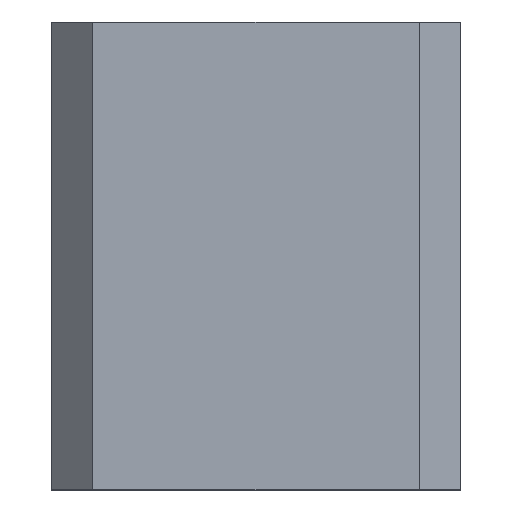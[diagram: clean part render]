
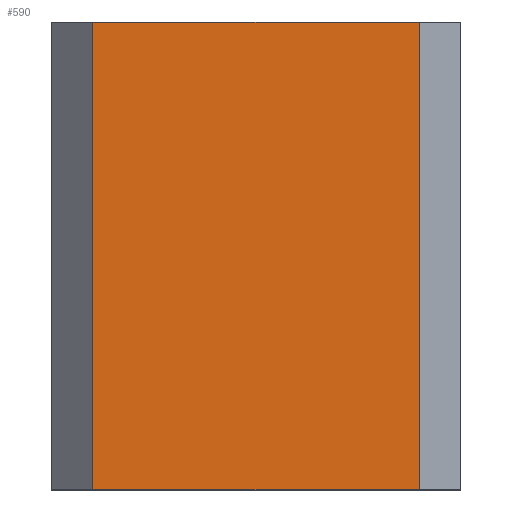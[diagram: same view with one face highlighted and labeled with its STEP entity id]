
A CAD part, top view. The second image highlights one B-rep face of the part: STEP entity #590.
In plain terms, the highlighted planar face has unit normal (0, 0, 1).
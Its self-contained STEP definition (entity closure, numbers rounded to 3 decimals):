
#70 = PLANE('',#71);
#71 = AXIS2_PLACEMENT_3D('',#72,#73,#74);
#72 = CARTESIAN_POINT('',(-5.05,0.8,0.));
#73 = DIRECTION('',(-0.,1.,0.));
#74 = DIRECTION('',(0.,0.,1.));
#126 = PLANE('',#127);
#127 = AXIS2_PLACEMENT_3D('',#128,#129,#130);
#128 = CARTESIAN_POINT('',(-5.05,24.8,0.));
#129 = DIRECTION('',(-0.,1.,0.));
#130 = DIRECTION('',(0.,0.,1.));
#152 = PLANE('',#153);
#153 = AXIS2_PLACEMENT_3D('',#154,#155,#156);
#154 = CARTESIAN_POINT('',(-3.994,0.8,8.544));
#155 = DIRECTION('',(0.707,0.,-0.707));
#156 = DIRECTION('',(0.,1.,0.));
#220 = VERTEX_POINT('',#221);
#221 = CARTESIAN_POINT('',(-2.938,0.8,9.6));
#242 = EDGE_CURVE('',#220,#243,#245,.T.);
#243 = VERTEX_POINT('',#244);
#244 = CARTESIAN_POINT('',(13.838,0.8,9.6));
#245 = SURFACE_CURVE('',#246,(#250,#257),.PCURVE_S1.);
#246 = LINE('',#247,#248);
#247 = CARTESIAN_POINT('',(-5.05,0.8,9.6));
#248 = VECTOR('',#249,1.);
#249 = DIRECTION('',(1.,0.,-0.));
#250 = PCURVE('',#70,#251);
#251 = DEFINITIONAL_REPRESENTATION('',(#252),#256);
#252 = LINE('',#253,#254);
#253 = CARTESIAN_POINT('',(9.6,0.));
#254 = VECTOR('',#255,1.);
#255 = DIRECTION('',(0.,1.));
#256 = ( GEOMETRIC_REPRESENTATION_CONTEXT(2) 
PARAMETRIC_REPRESENTATION_CONTEXT() REPRESENTATION_CONTEXT('2D SPACE',''
  ) );
#257 = PCURVE('',#258,#263);
#258 = PLANE('',#259);
#259 = AXIS2_PLACEMENT_3D('',#260,#261,#262);
#260 = CARTESIAN_POINT('',(-5.05,0.8,9.6));
#261 = DIRECTION('',(0.,0.,1.));
#262 = DIRECTION('',(1.,0.,-0.));
#263 = DEFINITIONAL_REPRESENTATION('',(#264),#268);
#264 = LINE('',#265,#266);
#265 = CARTESIAN_POINT('',(0.,0.));
#266 = VECTOR('',#267,1.);
#267 = DIRECTION('',(1.,0.));
#268 = ( GEOMETRIC_REPRESENTATION_CONTEXT(2) 
PARAMETRIC_REPRESENTATION_CONTEXT() REPRESENTATION_CONTEXT('2D SPACE',''
  ) );
#284 = PLANE('',#285);
#285 = AXIS2_PLACEMENT_3D('',#286,#287,#288);
#286 = CARTESIAN_POINT('',(14.894,0.8,8.544));
#287 = DIRECTION('',(0.707,0.,0.707));
#288 = DIRECTION('',(-0.,1.,0.));
#302 = VERTEX_POINT('',#303);
#303 = CARTESIAN_POINT('',(-2.938,24.8,9.6));
#324 = EDGE_CURVE('',#220,#302,#325,.T.);
#325 = SURFACE_CURVE('',#326,(#330,#337),.PCURVE_S1.);
#326 = LINE('',#327,#328);
#327 = CARTESIAN_POINT('',(-2.938,0.8,9.6));
#328 = VECTOR('',#329,1.);
#329 = DIRECTION('',(-0.,1.,0.));
#330 = PCURVE('',#152,#331);
#331 = DEFINITIONAL_REPRESENTATION('',(#332),#336);
#332 = LINE('',#333,#334);
#333 = CARTESIAN_POINT('',(0.,1.493));
#334 = VECTOR('',#335,1.);
#335 = DIRECTION('',(1.,0.));
#336 = ( GEOMETRIC_REPRESENTATION_CONTEXT(2) 
PARAMETRIC_REPRESENTATION_CONTEXT() REPRESENTATION_CONTEXT('2D SPACE',''
  ) );
#337 = PCURVE('',#258,#338);
#338 = DEFINITIONAL_REPRESENTATION('',(#339),#343);
#339 = LINE('',#340,#341);
#340 = CARTESIAN_POINT('',(2.112,0.));
#341 = VECTOR('',#342,1.);
#342 = DIRECTION('',(0.,1.));
#343 = ( GEOMETRIC_REPRESENTATION_CONTEXT(2) 
PARAMETRIC_REPRESENTATION_CONTEXT() REPRESENTATION_CONTEXT('2D SPACE',''
  ) );
#423 = EDGE_CURVE('',#302,#424,#426,.T.);
#424 = VERTEX_POINT('',#425);
#425 = CARTESIAN_POINT('',(13.838,24.8,9.6));
#426 = SURFACE_CURVE('',#427,(#431,#438),.PCURVE_S1.);
#427 = LINE('',#428,#429);
#428 = CARTESIAN_POINT('',(-5.05,24.8,9.6));
#429 = VECTOR('',#430,1.);
#430 = DIRECTION('',(1.,0.,-0.));
#431 = PCURVE('',#126,#432);
#432 = DEFINITIONAL_REPRESENTATION('',(#433),#437);
#433 = LINE('',#434,#435);
#434 = CARTESIAN_POINT('',(9.6,0.));
#435 = VECTOR('',#436,1.);
#436 = DIRECTION('',(0.,1.));
#437 = ( GEOMETRIC_REPRESENTATION_CONTEXT(2) 
PARAMETRIC_REPRESENTATION_CONTEXT() REPRESENTATION_CONTEXT('2D SPACE',''
  ) );
#438 = PCURVE('',#258,#439);
#439 = DEFINITIONAL_REPRESENTATION('',(#440),#444);
#440 = LINE('',#441,#442);
#441 = CARTESIAN_POINT('',(0.,24.));
#442 = VECTOR('',#443,1.);
#443 = DIRECTION('',(1.,0.));
#444 = ( GEOMETRIC_REPRESENTATION_CONTEXT(2) 
PARAMETRIC_REPRESENTATION_CONTEXT() REPRESENTATION_CONTEXT('2D SPACE',''
  ) );
#570 = EDGE_CURVE('',#243,#424,#571,.T.);
#571 = SURFACE_CURVE('',#572,(#576,#583),.PCURVE_S1.);
#572 = LINE('',#573,#574);
#573 = CARTESIAN_POINT('',(13.838,0.8,9.6));
#574 = VECTOR('',#575,1.);
#575 = DIRECTION('',(-0.,1.,0.));
#576 = PCURVE('',#284,#577);
#577 = DEFINITIONAL_REPRESENTATION('',(#578),#582);
#578 = LINE('',#579,#580);
#579 = CARTESIAN_POINT('',(0.,1.493));
#580 = VECTOR('',#581,1.);
#581 = DIRECTION('',(1.,0.));
#582 = ( GEOMETRIC_REPRESENTATION_CONTEXT(2) 
PARAMETRIC_REPRESENTATION_CONTEXT() REPRESENTATION_CONTEXT('2D SPACE',''
  ) );
#583 = PCURVE('',#258,#584);
#584 = DEFINITIONAL_REPRESENTATION('',(#585),#589);
#585 = LINE('',#586,#587);
#586 = CARTESIAN_POINT('',(18.888,0.));
#587 = VECTOR('',#588,1.);
#588 = DIRECTION('',(0.,1.));
#589 = ( GEOMETRIC_REPRESENTATION_CONTEXT(2) 
PARAMETRIC_REPRESENTATION_CONTEXT() REPRESENTATION_CONTEXT('2D SPACE',''
  ) );
#590 = ADVANCED_FACE('',(#591),#258,.T.);
#591 = FACE_BOUND('',#592,.T.);
#592 = EDGE_LOOP('',(#593,#594,#595,#596));
#593 = ORIENTED_EDGE('',*,*,#423,.F.);
#594 = ORIENTED_EDGE('',*,*,#324,.F.);
#595 = ORIENTED_EDGE('',*,*,#242,.T.);
#596 = ORIENTED_EDGE('',*,*,#570,.T.);
